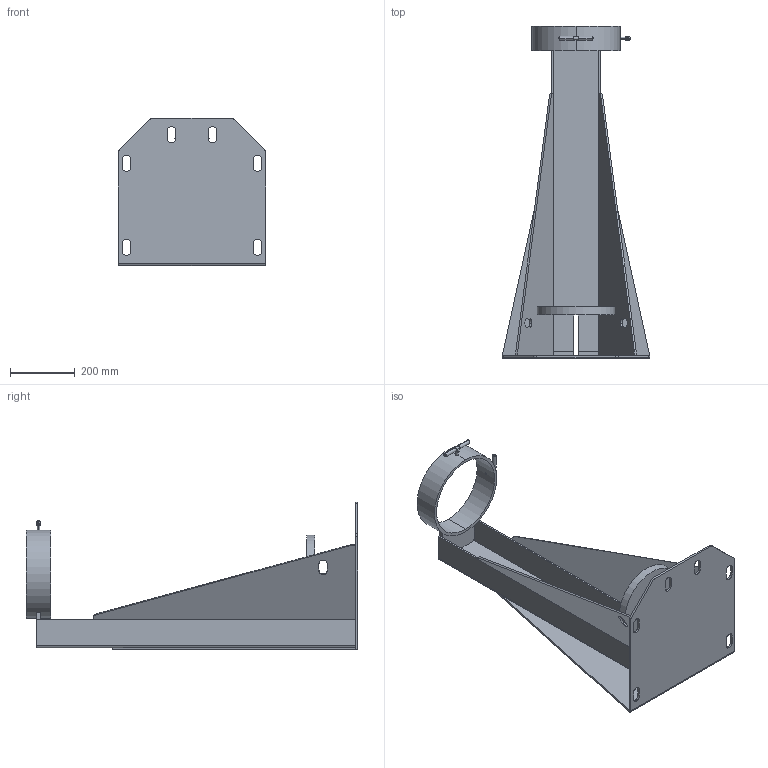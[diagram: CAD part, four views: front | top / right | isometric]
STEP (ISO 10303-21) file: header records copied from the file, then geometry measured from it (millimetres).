
FILE_DESCRIPTION (( 'STEP AP214' ), '1' );
FILE_NAME ('PLM-5S Base.STEP', '2015-11-05T22:41:57', ( '' ), ( '' ), 'SwSTEP 2.0', 'SolidWorks 2015', '' );
FILE_SCHEMA (( 'AUTOMOTIVE_DESIGN' ));
Length unit declared in the file: inch
Products named in the file (8): 1002-outside C channel dxf_5 stage short no articulate; 1001- 90 degree base_5S base; base for 5s no articulate; PLM-5S bottomplate; PLM-5S Base; .3125 T handle; Light mast triangle short_5S; 1004-7 Inch OD 3 Inch long_10
Assembly tree (9 placements, depth 2):
  PLM-5S Base
    1001- 90 degree base_5S base
    Light mast triangle short_5S  x2
    1002-outside C channel dxf_5 stage short no articulate
    1004-7 Inch OD 3 Inch long_10
    base for 5s no articulate
    PLM-5S bottomplate
    .3125 T handle  x2
Bounding box: 457.2 x 1028.7 x 457.2 mm (x, y, z)
Volume: 7803177.1 mm3; surface area: 2280430.3 mm2
Topology: 9 solids, 9 shells, 204 faces, 514 edges, 328 vertices
Faces by surface type: plane 102, cylinder 70, bspline 32
Entity records: 5708 total; most frequent: CARTESIAN_POINT 1488, ORIENTED_EDGE 808, DIRECTION 807, EDGE_CURVE 404, AXIS2_PLACEMENT_3D 281, VERTEX_POINT 260, LINE 245, VECTOR 245
